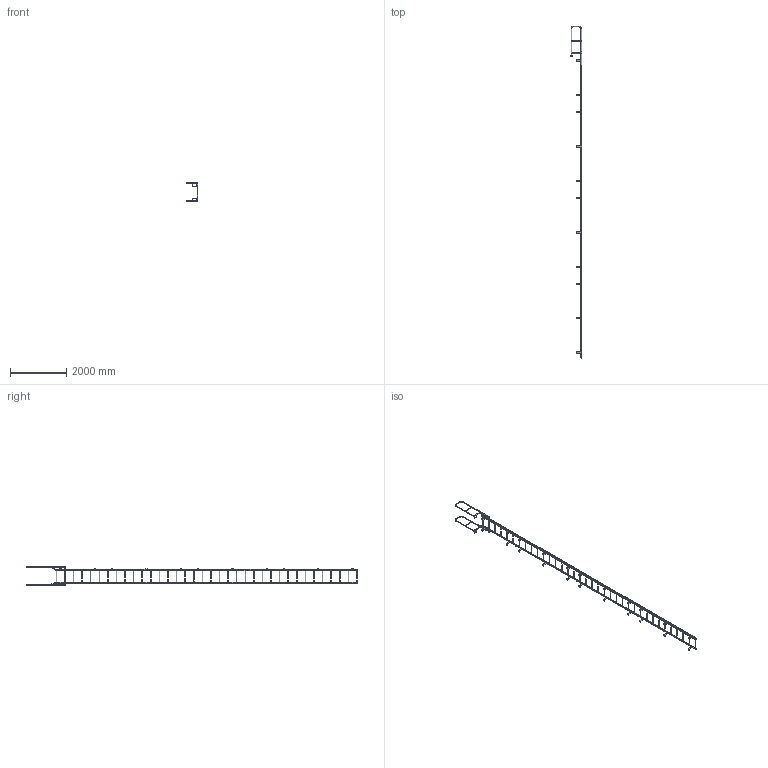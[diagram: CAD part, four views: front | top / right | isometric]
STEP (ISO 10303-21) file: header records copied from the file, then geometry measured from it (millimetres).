
FILE_DESCRIPTION(/* description */ (''),/* implementation_level */ '2;1');
FILE_NAME(/* name */ 'P:\MIKEL & KAREN\3570382 F36W SIMPLIFIED PART.stp',/* time_stamp */ '2018-07-02T16:17:27-04:00',/* author */ ('stephanie'),/* organization */ (''),/* preprocessor_version */ 'ST-DEVELOPER v16.1',/* originating_system */ 'Autodesk Inventor 2016',/* authorisation */ '');
FILE_SCHEMA (('AUTOMOTIVE_DESIGN { 1 0 10303 214 3 1 1 }'));
Length unit declared in the file: centimetre
Products named in the file (1): 3570382 F36W SIMPLIFIED PART
Bounding box: 425.45 x 11782.42 x 685.8 mm (x, y, z)
Volume: 20070745.8 mm3; surface area: 6800317.6 mm2
Topology: 45 solids, 45 shells, 739 faces, 1981 edges, 1304 vertices
Faces by surface type: plane 428, cylinder 303, torus 8
Full cylindrical faces by diameter (mm): 0.254 x1, 10.319 x4, 14.287 x28, 19.05 x36, 22.098 x10, 22.225 x72, 25.4 x10
Entity records: 22971 total; most frequent: CARTESIAN_POINT 4048, DIRECTION 3824, ORIENTED_EDGE 3424, EDGE_CURVE 1708, AXIS2_PLACEMENT_3D 1392, VERTEX_POINT 1200, EDGE_LOOP 1122, LINE 1040
